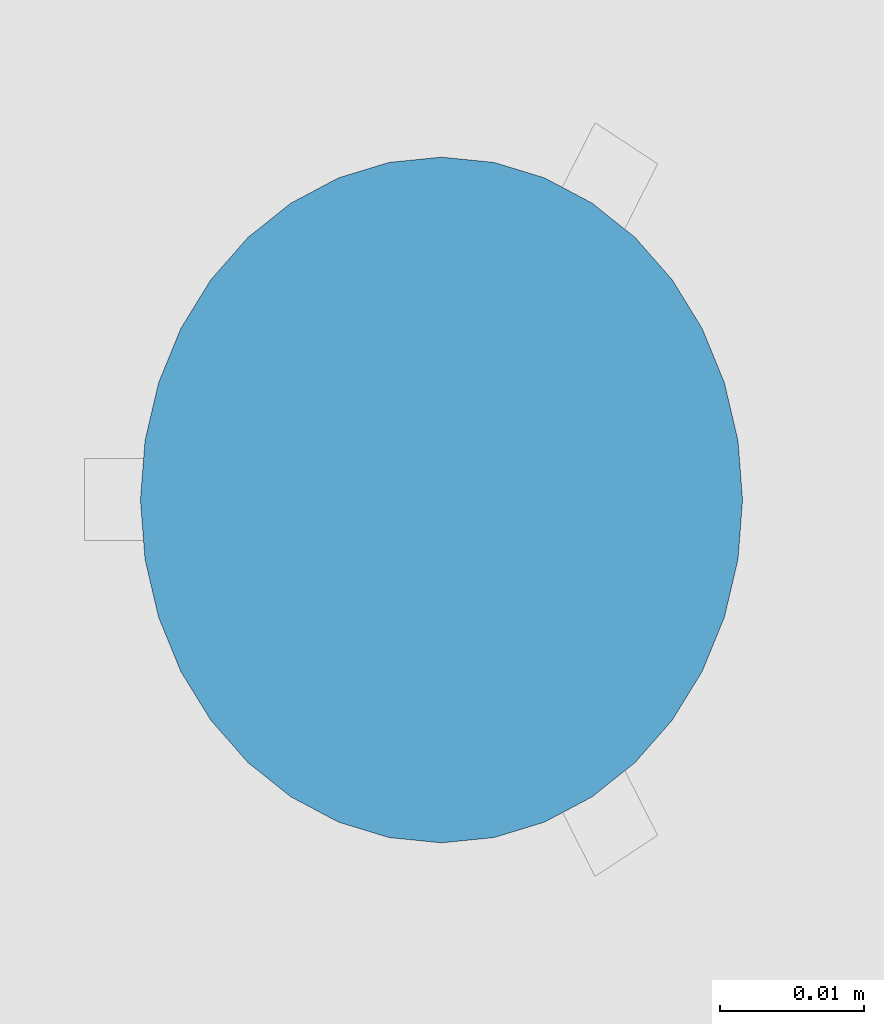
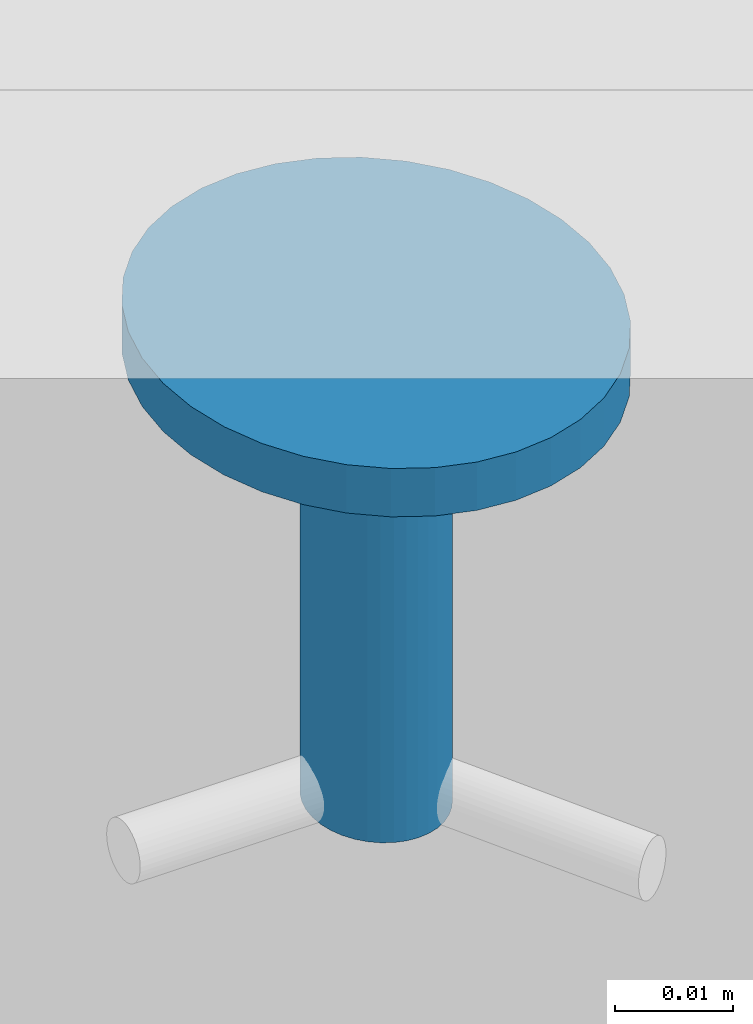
# One storey, part 30 of 788: 1 building element part, 1 element without a shape of its own.
"""IFC2X3 building model written with IfcOpenShell, lengths in millimetres."""

import ifcopenshell
import ifcopenshell.guid

model = None  # the IFC model being written
_history = None  # IfcOwnerHistory: only IFC2X3 demands one
_inside = {}  # id of a spatial element -> (the spatial element, [elements in it])
_under = {}  # id of a project, library or spatial element -> (it, [spatial elements below it])
_declared = {}  # id of a project -> (the project, [libraries it declares])
_typed = {}  # id of a type object -> (the type object, [elements of that type])
_made_of = {}  # id of a material, layer set ... -> (it, [elements and type objects made of it])


def new_model(schema):
    """Start an empty IFC model of exactly this schema.

    Asked for "IFC4X3", IfcOpenShell would pick the latest addendum, in which some entities
    have other attributes; the version numbers below select the first issue.
    IFC2X3 requires an IfcOwnerHistory on every rooted entity: one is made here for all.
    """
    global model, _history
    if schema == "IFC4X3":
        model = ifcopenshell.file(schema_version=(4, 3, 0, 0))
    else:
        model = ifcopenshell.file(schema=schema)
    _inside.clear()
    _under.clear()
    _declared.clear()
    _typed.clear()
    _made_of.clear()
    _history = None
    if model.schema == "IFC2X3":
        org = make("IfcOrganization", Name="unknown")
        user = make(
            "IfcPersonAndOrganization",
            ThePerson=make("IfcPerson", FamilyName="unknown"),
            TheOrganization=org,
        )
        app = make(
            "IfcApplication",
            ApplicationDeveloper=org,
            Version="unknown",
            ApplicationFullName="unknown",
            ApplicationIdentifier="unknown",
        )
        _history = make(
            "IfcOwnerHistory",
            OwningUser=user,
            OwningApplication=app,
            ChangeAction="ADDED",
            CreationDate=0,
        )
    return model


def make(cls, **values):
    """One entity of the class cls with the attributes given. An attribute that is None is left unset."""
    return model.create_entity(
        cls, **{name: value for name, value in values.items() if value is not None}
    )


def entity(cls, *values):
    """Any entity or typed value of the class cls, its attributes in the order of the schema. None: left unset."""
    e = model.create_entity(cls)
    for i, value in enumerate(values):
        if value is not None:
            e[i] = value
    return e


def rooted(cls, **values):
    """An entity with a GlobalId (a new one), such as an element, a storey or a relation."""
    return make(cls, GlobalId=ifcopenshell.guid.new(), OwnerHistory=_history, **values)


def si_unit(unit_type, name, prefix=None):
    """IfcSIUnit, for example si_unit("LENGTHUNIT", "METRE", prefix="MILLI")."""
    return make("IfcSIUnit", UnitType=unit_type, Prefix=prefix, Name=name)


def converted_unit(unit_type, name, factor, base, dimensions=None, offset=None):
    """IfcConversionBasedUnit, such as the inch: factor (a typed value) times the base unit."""
    return make(
        "IfcConversionBasedUnit"
        if offset is None
        else "IfcConversionBasedUnitWithOffset",
        ConversionOffset=offset,
        Dimensions=None
        if dimensions is None
        else entity("IfcDimensionalExponents", *dimensions),
        UnitType=unit_type,
        Name=name,
        ConversionFactor=make(
            "IfcMeasureWithUnit", ValueComponent=factor, UnitComponent=base
        ),
    )


def derived_unit(unit_type, elements):
    """IfcDerivedUnit: a product of units, each with its exponent."""
    return make(
        "IfcDerivedUnit",
        Elements=[
            make("IfcDerivedUnitElement", Unit=unit, Exponent=power)
            for unit, power in elements
        ],
        UnitType=unit_type,
    )


def money_unit(currency):
    """IfcMonetaryUnit."""
    return make("IfcMonetaryUnit", Currency=currency)


def assignment(units):
    """IfcUnitAssignment: the units of a project."""
    return None if units is None else make("IfcUnitAssignment", Units=units)


def point(xyz):
    """IfcCartesianPoint."""
    return None if xyz is None else make("IfcCartesianPoint", Coordinates=xyz)


def direction(xyz):
    """IfcDirection."""
    return None if xyz is None else make("IfcDirection", DirectionRatios=xyz)


def frame(location, z_axis=None, x_axis=None):
    """IfcAxis2Placement3D, a coordinate frame: its origin and axes. An axis left out is left unset."""
    return make(
        "IfcAxis2Placement3D",
        Location=point(location),
        Axis=direction(z_axis),
        RefDirection=direction(x_axis),
    )


def origin_with_axes():
    """The frame at (0, 0, 0) with the z axis (0, 0, 1) and the x axis (1, 0, 0) written out."""
    return frame((0.0, 0.0, 0.0), z_axis=(0.0, 0.0, 1.0), x_axis=(1.0, 0.0, 0.0))


def place(relative_to, where):
    """IfcLocalPlacement: puts the frame where relative to a parent placement (None: the world)."""
    return make(
        "IfcLocalPlacement", PlacementRelTo=relative_to, RelativePlacement=where
    )


def context(
    kind, dimensions, precision=None, world=None, true_north=None, identifier=None
):
    """IfcGeometricRepresentationContext, for example the 3D "Model" context."""
    return make(
        "IfcGeometricRepresentationContext",
        ContextIdentifier=identifier,
        ContextType=kind,
        CoordinateSpaceDimension=dimensions,
        Precision=precision,
        WorldCoordinateSystem=world,
        TrueNorth=true_north,
    )


def subcontext(parent, identifier, kind, view, scale=None):
    """IfcGeometricRepresentationSubContext, for example "Body" below "Model"."""
    return make(
        "IfcGeometricRepresentationSubContext",
        ContextIdentifier=identifier,
        ContextType=kind,
        ParentContext=parent,
        TargetScale=scale,
        TargetView=view,
    )


def project(units=None, contexts=None):
    """IfcProject with its units and contexts."""
    return rooted(
        "IfcProject",
        Name="project",
        RepresentationContexts=contexts,
        UnitsInContext=assignment(units),
    )


def spatial(cls, under=None, at=None, **own):
    """A site, building, storey or space (cls), placed at a placement, below another one or the project."""
    s = rooted(cls, ObjectPlacement=at, **own)
    if under is not None:
        _under.setdefault(under.id(), (under, []))[1].append(s)
    return s


def faces_of(points, faces, orient=None, outer=None):
    """IfcFace entities. A face is a list of loops; a loop is a list of indices into points, from 0.

    orient and outer hold one flag for each loop. By default every Orientation is true, the
    first loop of a face is its IfcFaceOuterBound and the others are IfcFaceBound.
    """
    made = []
    for i, loops in enumerate(faces):
        bounds = []
        for j, loop in enumerate(loops):
            is_outer = j == 0 if outer is None else outer[i][j]
            bounds.append(
                make(
                    "IfcFaceOuterBound" if is_outer else "IfcFaceBound",
                    Bound=make("IfcPolyLoop", Polygon=[points[k] for k in loop]),
                    Orientation=True if orient is None else orient[i][j],
                )
            )
        made.append(make("IfcFace", Bounds=bounds))
    return made


def faceted_brep(points, faces, orient=None, outer=None, voids=None):
    """IfcFacetedBrep: a solid bounded by flat faces; with voids (closed shells), ...WithVoids."""
    shared = [point(p) for p in points]
    hull = make("IfcClosedShell", CfsFaces=faces_of(shared, faces, orient, outer))
    if voids is None:
        return make("IfcFacetedBrep", Outer=hull)
    return make(
        "IfcFacetedBrepWithVoids",
        Outer=hull,
        Voids=[
            make(cls, CfsFaces=faces_of(shared, fs, o, b)) for cls, fs, o, b in voids
        ],
    )


def shape(context_of_items, identifier, shape_type, items):
    """IfcShapeRepresentation: the items that make up one representation, for example the "Body"."""
    return make(
        "IfcShapeRepresentation",
        ContextOfItems=context_of_items,
        RepresentationIdentifier=identifier,
        RepresentationType=shape_type,
        Items=items,
    )


def source(mapping_origin, context_of_items, identifier, shape_type, items):
    """IfcRepresentationMap: a shape defined once, which mapped items show again and again."""
    return make(
        "IfcRepresentationMap",
        MappingOrigin=mapping_origin,
        MappedRepresentation=shape(context_of_items, identifier, shape_type, items),
    )


def transform(
    local_origin,
    x_axis=None,
    y_axis=None,
    z_axis=None,
    scale=None,
    scale2=None,
    scale3=None,
    uniform=True,
):
    """IfcCartesianTransformationOperator3D, or its non-uniform kind. x_axis, y_axis, z_axis: its Axis1, 2, 3."""
    if uniform:
        return make(
            "IfcCartesianTransformationOperator3D",
            Axis1=direction(x_axis),
            Axis2=direction(y_axis),
            LocalOrigin=point(local_origin),
            Scale=scale,
            Axis3=direction(z_axis),
        )
    return make(
        "IfcCartesianTransformationOperator3DnonUniform",
        Axis1=direction(x_axis),
        Axis2=direction(y_axis),
        LocalOrigin=point(local_origin),
        Scale=scale,
        Axis3=direction(z_axis),
        Scale2=scale2,
        Scale3=scale3,
    )


def mapped(mapping_source, mapping_target):
    """IfcMappedItem: shows the shape of a source again, moved by a transform."""
    return make(
        "IfcMappedItem", MappingSource=mapping_source, MappingTarget=mapping_target
    )


def material(Name=None, Category=None):
    """IfcMaterial."""
    return make("IfcMaterial", Name=Name, Category=Category)


def made_of(thing, what):
    """Note that an element or type object is made of a material, layer set ...; save() writes the relation."""
    if what is not None:
        _made_of.setdefault(what.id(), (what, []))[1].append(thing)
    return thing


def type_object(cls, material=None, **own):
    """A type object (cls), such as IfcWallType, which elements share."""
    return made_of(rooted(cls, **own), material)


def element(
    cls,
    number,
    at=None,
    inside=None,
    cuts=None,
    type_object=None,
    material=None,
    context=None,
    identifier="Body",
    shape_type=None,
    held_by="IfcProductDefinitionShape",
    body=None,
    shapes=None,
    **own,
):
    """One element of the class cls, such as IfcWall. Its Tag is "e" and its number.

    at: its placement. inside: the storey or other place that contains it. cuts: it is an
    opening in that element (IfcRelVoidsElement). A single representation is given by context,
    identifier, shape_type and body (its items); several are given by shapes. held_by: the class
    of the entity that holds the representations. save() writes the other relations.
    """
    e = rooted(cls, Tag="e%d" % number, ObjectPlacement=at, **own)
    if body is not None:
        shapes = [shape(context, identifier, shape_type, body)]
    if shapes is not None:
        e.Representation = make(held_by, Representations=shapes)
    if inside is not None:
        _inside.setdefault(inside.id(), (inside, []))[1].append(e)
    if cuts is not None:
        rooted(
            "IfcRelVoidsElement", RelatingBuildingElement=cuts, RelatedOpeningElement=e
        )
    if type_object is not None:
        _typed.setdefault(type_object.id(), (type_object, []))[1].append(e)
    return made_of(e, material)


def aggregate(whole, parts):
    """IfcRelAggregates: a whole, such as a stair, and the parts it consists of."""
    return rooted("IfcRelAggregates", RelatingObject=whole, RelatedObjects=parts)


def save(model, path):
    """Write the relations noted so far, then the file.

    IfcRelAggregates (storeys below a building ...), IfcRelContainedInSpatialStructure (elements
    in a storey), IfcRelDefinesByType, IfcRelAssociatesMaterial and IfcRelDeclares: one each for
    every whole, place, type object, material and project.
    """
    for whole, parts in _under.values():
        aggregate(whole, parts)
    for where, things in _inside.values():
        rooted(
            "IfcRelContainedInSpatialStructure",
            RelatedElements=things,
            RelatingStructure=where,
        )
    for kind, things in _typed.values():
        rooted("IfcRelDefinesByType", RelatedObjects=things, RelatingType=kind)
    for what, things in _made_of.values():
        rooted("IfcRelAssociatesMaterial", RelatedObjects=things, RelatingMaterial=what)
    for by, libraries in _declared.values():
        rooted("IfcRelDeclares", RelatingContext=by, RelatedDefinitions=libraries)
    model.write(path)


model = new_model("IFC2X3")

# Units and contexts
model_context = context("Model", 3, precision=0.01, world=origin_with_axes(), true_north=direction((0.0, 1.0)))
plan_context = context("Plan", 3, precision=0.01, world=origin_with_axes(), true_north=direction((0.0, 1.0)))
body_context = subcontext(model_context, "Body", "Model", "MODEL_VIEW")
ifc_project = project(units=[si_unit("LENGTHUNIT", "METRE", prefix="MILLI"), si_unit("AREAUNIT", "SQUARE_METRE"), si_unit("VOLUMEUNIT", "CUBIC_METRE"), converted_unit("PLANEANGLEUNIT", "DEGREE", entity("IfcPlaneAngleMeasure", 0.0174532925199), si_unit("PLANEANGLEUNIT", "RADIAN"), dimensions=[0, 0, 0, 0, 0, 0, 0]), money_unit("EUR"), converted_unit("TIMEUNIT", "Year", entity("IfcTimeMeasure", 31556926.0), si_unit("TIMEUNIT", "SECOND"), dimensions=[0, 0, 1, 0, 0, 0, 0]), si_unit("MASSUNIT", "GRAM", prefix="KILO"), si_unit("THERMODYNAMICTEMPERATUREUNIT", "DEGREE_CELSIUS"), si_unit("LUMINOUSINTENSITYUNIT", "LUMEN"), si_unit("ENERGYUNIT", "JOULE", prefix="MEGA"), derived_unit("THERMALCONDUCTANCEUNIT", [(si_unit("POWERUNIT", "WATT"), 1), (si_unit("LENGTHUNIT", "METRE"), -1), (si_unit("THERMODYNAMICTEMPERATUREUNIT", "KELVIN"), -1)]), derived_unit("SPECIFICHEATCAPACITYUNIT", [(si_unit("ENERGYUNIT", "JOULE"), 1), (si_unit("MASSUNIT", "GRAM", prefix="KILO"), -1), (si_unit("THERMODYNAMICTEMPERATUREUNIT", "KELVIN"), -1)]), derived_unit("MASSDENSITYUNIT", [(si_unit("MASSUNIT", "GRAM", prefix="KILO"), 1), (si_unit("VOLUMEUNIT", "CUBIC_METRE"), -1)])], contexts=[model_context, plan_context])

# Site, building, storey
site_placement = place(None, origin_with_axes())
site = spatial("IfcSite", under=ifc_project, at=site_placement, Name="Site", CompositionType="ELEMENT")
building_placement = place(site_placement, origin_with_axes())
building = spatial("IfcBuilding", under=site, at=building_placement, Name="Naam gebouw", CompositionType="ELEMENT")
storey_placement = place(building_placement, origin_with_axes())
storey = spatial("IfcBuildingStorey", under=building, at=storey_placement, Name="Begane grond", CompositionType="ELEMENT", Elevation=0.0)

# Proxy, building element part
building_element_proxy_type = type_object("IfcBuildingElementProxyType", Name="plafondhaak", PredefinedType="NOTDEFINED")
proxy_placement = place(storey_placement, frame((13701.5362747, 8988.51705232, 1211.0), z_axis=(0.0, 0.0, 1.0), x_axis=(-1.0, 0.0, 0.0)))
proxy = element("IfcBuildingElementProxy", 1, at=proxy_placement, inside=storey, type_object=building_element_proxy_type, Name="garderobehaak")
ifc_material = material(Name="_Dichte arcering")
shared_shape = source(origin_with_axes(), body_context, "Body", "Brep", [
    faceted_brep([(-17.5871200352, 3.81461944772, 50.0), (-17.5871200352, 3.81461944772, 45.0), (-14.2952839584, 5.56266277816, 45.0), (-14.2952839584, 5.56266277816, 50.0), (-21.0954971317, 2.74408618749, 50.0), (-21.0954971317, 2.74408618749, 45.0), (-5.13338153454, 17.9967404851, 45.0), (-6.66838990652, 14.2480494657, 45.0), (-8.75169938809, 10.8598540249, 45.0), (-11.3200096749, 7.93510276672, 45.0), (-24.7138149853, 2.38359060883, 45.0), (-28.3321328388, 2.74408618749, 45.0), (-31.8405099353, 3.81461944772, 45.0), (-35.1323460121, 5.56266277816, 45.0), (-38.1076202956, 7.93510276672, 45.0), (-40.6759305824, 10.8598540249, 45.0), (-42.759240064, 14.2480494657, 45.0), (-44.294248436, 17.9967404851, 45.0), (-45.2343152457, 21.9920250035, 45.0), (-45.550877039, 26.1125083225, 45.0), (-45.2343152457, 30.2329916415, 45.0), (-44.294248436, 34.2282761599, 45.0), (-42.759240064, 37.9769671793, 45.0), (-40.6759305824, 41.3651626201, 45.0), (-38.1076202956, 44.2899138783, 45.0), (-35.1323460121, 46.6623538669, 45.0), (-31.8405099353, 48.4103971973, 45.0), (-28.3321328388, 49.4809304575, 45.0), (-24.7138149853, 49.8414260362, 45.0), (-21.0954971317, 49.4809304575, 45.0), (-17.5871200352, 48.4103971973, 45.0), (-14.2952839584, 46.6623538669, 45.0), (-11.3200096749, 44.2899138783, 45.0), (-8.75169938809, 41.3651626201, 45.0), (-6.66838990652, 37.9769671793, 45.0), (-5.13338153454, 34.2282761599, 45.0), (-4.19331472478, 30.2329916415, 45.0), (-3.87675293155, 26.1125083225, 45.0), (-4.19331472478, 21.9920250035, 45.0), (-24.7138149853, 18.9938330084, 45.0), (-23.6283196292, 19.101981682, 45.0), (-22.5758065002, 19.4231416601, 45.0), (-21.5882556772, 19.9475546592, 45.0), (-20.6956733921, 20.6592866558, 45.0), (-19.9251803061, 21.5367120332, 45.0), (-19.3001874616, 22.5531706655, 45.0), (-18.83968495, 23.6777779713, 45.0), (-18.5576649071, 24.8763633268, 45.0), (-18.4626963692, 26.1125083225, 45.0), (-18.5576649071, 27.3486533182, 45.0), (-18.83968495, 28.5472386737, 45.0), (-19.3001874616, 29.6718459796, 45.0), (-19.9251803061, 30.6883046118, 45.0), (-20.6956733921, 31.5657299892, 45.0), (-21.5882556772, 32.2774619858, 45.0), (-22.5758065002, 32.8018749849, 45.0), (-23.6283196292, 33.123034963, 45.0), (-24.7138149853, 33.2311836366, 45.0), (-25.7993103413, 33.123034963, 45.0), (-26.8518234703, 32.8018749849, 45.0), (-27.8393742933, 32.2774619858, 45.0), (-28.7319565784, 31.5657299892, 45.0), (-29.5024496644, 30.6883046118, 45.0), (-30.1274425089, 29.6718459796, 45.0), (-30.5879450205, 28.5472386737, 45.0), (-30.8699650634, 27.3486533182, 45.0), (-30.9649336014, 26.1125083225, 45.0), (-30.8699650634, 24.8763633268, 45.0), (-30.5879450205, 23.6777779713, 45.0), (-30.1274425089, 22.5531706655, 45.0), (-29.5024496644, 21.5367120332, 45.0), (-28.7319565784, 20.6592866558, 45.0), (-27.8393742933, 19.9475546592, 45.0), (-26.8518234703, 19.4231416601, 45.0), (-25.7993103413, 19.101981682, 45.0), (-11.3200096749, 7.93510276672, 50.0), (-8.75169938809, 10.8598540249, 50.0), (-6.66838990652, 14.2480494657, 50.0), (-5.13338153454, 17.9967404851, 50.0), (-4.19331472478, 21.9920250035, 50.0), (-3.87675293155, 26.1125083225, 50.0), (-4.19331472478, 30.2329916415, 50.0), (-5.13338153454, 34.2282761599, 50.0), (-6.66838990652, 37.9769671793, 50.0), (-8.75169938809, 41.3651626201, 50.0), (-11.3200096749, 44.2899138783, 50.0), (-14.2952839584, 46.6623538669, 50.0), (-17.5871200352, 48.4103971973, 50.0), (-21.0954971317, 49.4809304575, 50.0), (-24.7138149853, 49.8414260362, 50.0), (-28.3321328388, 49.4809304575, 50.0), (-31.8405099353, 48.4103971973, 50.0), (-35.1323460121, 46.6623538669, 50.0), (-38.1076202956, 44.2899138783, 50.0), (-40.6759305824, 41.3651626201, 50.0), (-42.759240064, 37.9769671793, 50.0), (-44.294248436, 34.2282761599, 50.0), (-45.2343152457, 30.2329916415, 50.0), (-45.550877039, 26.1125083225, 50.0), (-45.2343152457, 21.9920250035, 50.0), (-44.294248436, 17.9967404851, 50.0), (-42.759240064, 14.2480494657, 50.0), (-40.6759305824, 10.8598540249, 50.0), (-38.1076202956, 7.93510276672, 50.0), (-35.1323460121, 5.56266277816, 50.0), (-31.8405099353, 3.81461944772, 50.0), (-28.3321328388, 2.74408618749, 50.0), (-24.7138149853, 2.38359060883, 50.0), (-24.7138149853, 18.9938330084, 0.0), (-23.6283196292, 19.101981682, 0.0), (-22.5758065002, 19.4231416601, 0.0), (-21.5882556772, 19.9475546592, 0.0), (-20.6956733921, 20.6592866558, 0.0), (-19.9251803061, 21.5367120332, 0.0), (-19.3001874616, 22.5531706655, 0.0), (-18.83968495, 23.6777779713, 0.0), (-18.5576649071, 24.8763633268, 0.0), (-18.4626963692, 26.1125083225, 0.0), (-18.5576649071, 27.3486533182, 0.0), (-18.83968495, 28.5472386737, 0.0), (-19.3001874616, 29.6718459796, 0.0), (-19.9251803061, 30.6883046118, 0.0), (-20.6956733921, 31.5657299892, 0.0), (-21.5882556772, 32.2774619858, 0.0), (-22.5758065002, 32.8018749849, 0.0), (-23.6283196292, 33.123034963, 0.0), (-24.7138149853, 33.2311836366, 0.0), (-25.7993103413, 33.123034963, 0.0), (-26.8518234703, 32.8018749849, 0.0), (-27.8393742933, 32.2774619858, 0.0), (-28.7319565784, 31.5657299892, 0.0), (-29.5024496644, 30.6883046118, 0.0), (-30.1274425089, 29.6718459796, 0.0), (-30.5879450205, 28.5472386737, 0.0), (-30.8699650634, 27.3486533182, 0.0), (-30.9649336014, 26.1125083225, 0.0), (-30.8699650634, 24.8763633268, 0.0), (-30.5879450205, 23.6777779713, 0.0), (-30.1274425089, 22.5531706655, 0.0), (-29.5024496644, 21.5367120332, 0.0), (-28.7319565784, 20.6592866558, 0.0), (-27.8393742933, 19.9475546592, 0.0), (-26.8518234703, 19.4231416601, 0.0), (-25.7993103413, 19.101981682, 0.0)], [[[0, 1, 2, 3]], [[0, 4, 5, 1]], [[6, 7, 8, 9, 2, 1, 5, 10, 11, 12, 13, 14, 15, 16, 17, 18, 19, 20, 21, 22, 23, 24, 25, 26, 27, 28, 29, 30, 31, 32, 33, 34, 35, 36, 37, 38], [39, 40, 41, 42, 43, 44, 45, 46, 47, 48, 49, 50, 51, 52, 53, 54, 55, 56, 57, 58, 59, 60, 61, 62, 63, 64, 65, 66, 67, 68, 69, 70, 71, 72, 73, 74]], [[3, 2, 9, 75]], [[3, 75, 76, 77, 78, 79, 80, 81, 82, 83, 84, 85, 86, 87, 88, 89, 90, 91, 92, 93, 94, 95, 96, 97, 98, 99, 100, 101, 102, 103, 104, 105, 106, 107, 4, 0]], [[107, 10, 5, 4]], [[77, 7, 6, 78]], [[76, 8, 7, 77]], [[9, 8, 76, 75]], [[106, 11, 10, 107]], [[105, 12, 11, 106]], [[104, 13, 12, 105]], [[103, 14, 13, 104]], [[103, 102, 15, 14]], [[102, 101, 16, 15]], [[100, 17, 16, 101]], [[99, 18, 17, 100]], [[98, 19, 18, 99]], [[97, 20, 19, 98]], [[96, 21, 20, 97]], [[95, 22, 21, 96]], [[94, 23, 22, 95]], [[93, 24, 23, 94]], [[92, 25, 24, 93]], [[91, 26, 25, 92]], [[90, 27, 26, 91]], [[89, 28, 27, 90]], [[88, 29, 28, 89]], [[30, 29, 88, 87]], [[31, 30, 87, 86]], [[32, 31, 86, 85]], [[33, 32, 85, 84]], [[83, 34, 33, 84]], [[82, 35, 34, 83]], [[81, 36, 35, 82]], [[80, 37, 36, 81]], [[79, 38, 37, 80]], [[78, 6, 38, 79]], [[40, 39, 108, 109]], [[41, 40, 109, 110]], [[110, 111, 42, 41]], [[43, 42, 111, 112]], [[112, 113, 44, 43]], [[113, 114, 45, 44]], [[114, 115, 46, 45]], [[47, 46, 115, 116]], [[116, 117, 48, 47]], [[117, 118, 49, 48]], [[118, 119, 50, 49]], [[119, 120, 51, 50]], [[120, 121, 52, 51]], [[53, 52, 121, 122]], [[122, 123, 54, 53]], [[123, 124, 55, 54]], [[124, 125, 56, 55]], [[125, 126, 57, 56]], [[58, 57, 126, 127]], [[59, 58, 127, 128]], [[60, 59, 128, 129]], [[129, 130, 61, 60]], [[130, 131, 62, 61]], [[131, 132, 63, 62]], [[64, 63, 132, 133]], [[65, 64, 133, 134]], [[66, 65, 134, 135]], [[135, 136, 67, 66]], [[68, 67, 136, 137]], [[137, 138, 69, 68]], [[70, 69, 138, 139]], [[71, 70, 139, 140]], [[72, 71, 140, 141]], [[73, 72, 141, 142]], [[74, 73, 142, 143]], [[39, 74, 143, 108]], [[109, 108, 143, 142, 141, 140, 139, 138, 137, 136, 135, 134, 133, 132, 131, 130, 129, 128, 127, 126, 125, 124, 123, 122, 121, 120, 119, 118, 117, 116, 115, 114, 113, 112, 111, 110]]]),
])
building_element_part_placement = place(proxy_placement, origin_with_axes())
building_element_part = element("IfcBuildingElementPart", 2, at=building_element_part_placement, material=ifc_material, Name="_Dichte arcering", context=body_context, shape_type="MappedRepresentation", body=[
    mapped(shared_shape, transform((0.0, 0.0, 0.0))),
])
aggregate(proxy, [building_element_part])

save(model, "model.ifc")
